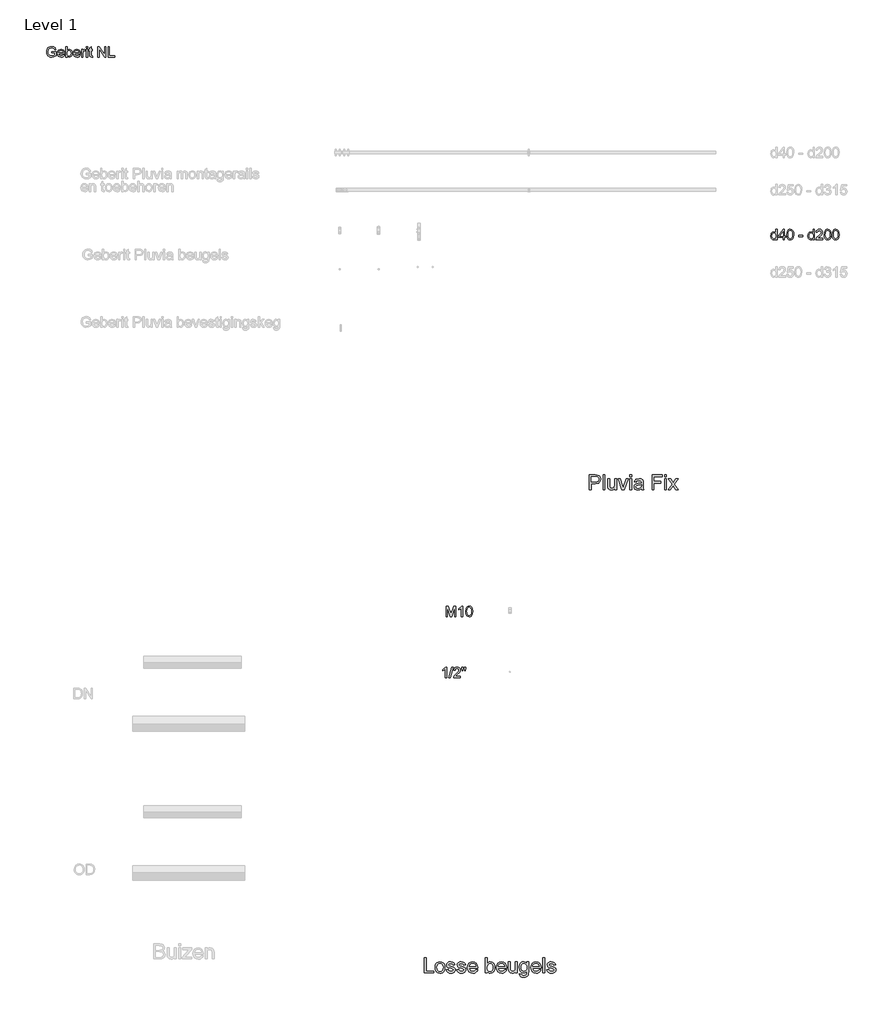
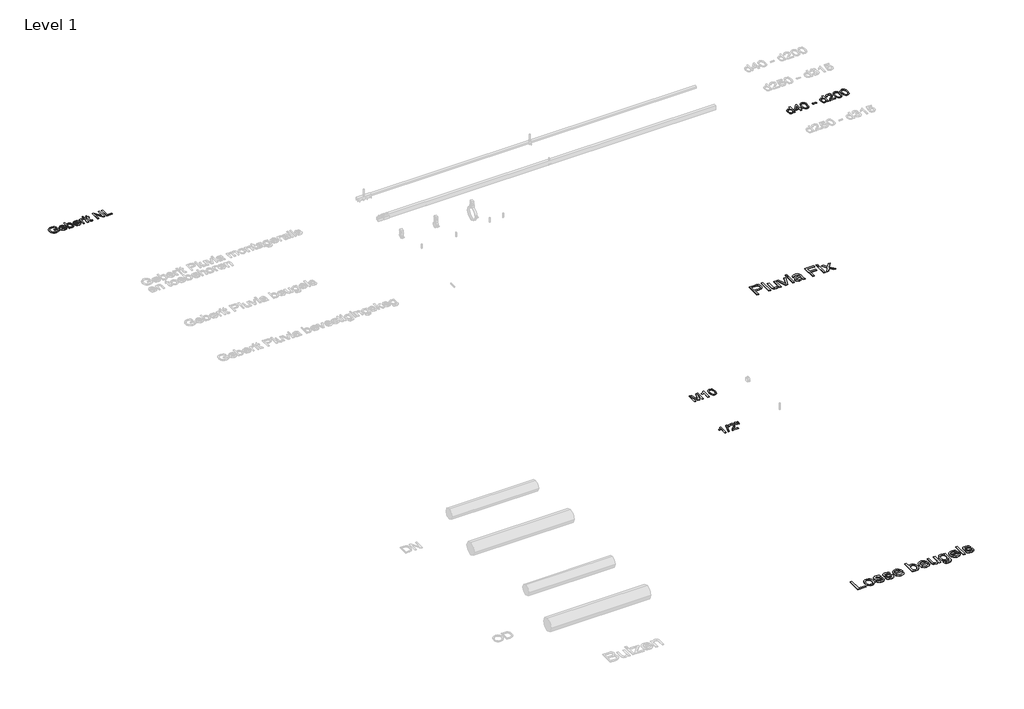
# One storey, part 4 of 5: 6 proxies.
"""IFC4 building model written with IfcOpenShell, lengths in millimetres."""

from ifc_helpers import new_model, si_unit, origin, origin_with_axes, place, context, project, spatial, polyline, outline, extrude, element, save

model = new_model("IFC4")

# Units and contexts
model_context = context("Model", 3, world=origin())
ifc_project = project(units=[si_unit("LENGTHUNIT", "METRE", prefix="MILLI")], contexts=[model_context])

# Site, building, storey
site = spatial("IfcSite", under=ifc_project)
building = spatial("IfcBuilding", under=site)
storey = spatial("IfcBuildingStorey", under=building, Name="Level 1", Elevation=0.0)

# Proxies
placement = place(None, origin())
element("IfcBuildingElementProxy", 1, Name="medium", ObjectType="medium", at=placement, inside=storey, context=model_context, shape_type="SweptSolid", body=[
    extrude(outline(polyline([(3622.9953252, 17479.9906194), (3622.9953252, 17680.9032397), (3697.454641, 17680.9032397), (3727.4738118, 17678.9902533), (3751.8766508, 17669.5969997), (3760.7487383, 17661.2706039), (3767.6955766, 17650.1728304), (3772.1837369, 17637.0823627), (3773.6797904, 17622.7778845), (3769.6392198, 17599.0985467), (3757.5175081, 17579.367809), (3747.8100219, 17571.5993676), (3734.8498458, 17566.0504808), (3699.1714236, 17561.6113714), (3648.1094027, 17561.6113714), (3648.1094027, 17479.9906194), (3622.9953252, 17479.9906194)]), holes=[polyline([(3648.1094027, 17586.7254489), (3700.6429516, 17586.7254489), (3722.912075, 17589.0308428), (3737.6273549, 17595.9470243), (3745.8311233, 17607.0447978), (3748.5657128, 17621.8949677), (3746.9531634, 17633.1766822), (3742.1155152, 17642.6925631), (3734.6536421, 17649.8539993), (3725.168418, 17654.0723795), (3700.0543404, 17655.7891622), (3648.1094027, 17655.7891622), (3648.1094027, 17586.7254489)])]), origin_with_axes(), (0.0, 0.0, 1.0), 5.0),
    extrude(outline(polyline([(3805.0723873, 17479.9906194), (3805.0723873, 17680.9032397), (3830.1864648, 17680.9032397), (3830.1864648, 17479.9906194), (3805.0723873, 17479.9906194)])), origin_with_axes(), (0.0, 0.0, 1.0), 5.0),
    extrude(outline(polyline([(3962.0353719, 17479.9906194), (3962.0353719, 17505.3499516), (3952.9486866, 17492.8818176), (3942.3659479, 17483.9760077), (3930.2871557, 17478.6325217), (3916.7123101, 17476.8513597), (3893.094286, 17481.8545548), (3876.8093764, 17494.4115936), (3869.3291091, 17512.9037952), (3867.8575811, 17536.2520392), (3867.8575811, 17627.5358249), (3892.9716587, 17627.5358249), (3892.9716587, 17548.073314), (3894.4922376, 17522.4687271), (3898.1526635, 17513.9277334), (3904.4250515, 17507.4346162), (3923.1379823, 17501.9654372), (3944.107256, 17507.5572436), (3952.4643087, 17514.1607254), (3957.9641445, 17522.7875582), (3962.0353719, 17550.7711153), (3962.0353719, 17627.5358249), (3987.1494495, 17627.5358249), (3987.1494495, 17479.9906194), (3962.0353719, 17479.9906194)])), origin_with_axes(), (0.0, 0.0, 1.0), 5.0),
    extrude(outline(polyline([(4057.8808944, 17479.9906194), (4005.9850076, 17627.5358249), (4032.5706131, 17627.5358249), (4064.012261, 17539.1460442), (4073.479091, 17509.421179), (4082.7497173, 17537.4783125), (4114.3875688, 17627.5358249), (4140.9731744, 17627.5358249), (4089.7149497, 17479.9906194), (4057.8808944, 17479.9906194)])), origin_with_axes(), (0.0, 0.0, 1.0), 5.0),
    extrude(outline(polyline([(4162.9479922, 17655.7891622), (4162.9479922, 17680.9032397), (4188.0620698, 17680.9032397), (4188.0620698, 17655.7891622), (4162.9479922, 17655.7891622)])), origin_with_axes(), (0.0, 0.0, 1.0), 5.0),
    extrude(outline(polyline([(4162.9479922, 17479.9906194), (4162.9479922, 17627.5358249), (4188.0620698, 17627.5358249), (4188.0620698, 17479.9906194), (4162.9479922, 17479.9906194)])), origin_with_axes(), (0.0, 0.0, 1.0), 5.0),
    extrude(outline(polyline([(4319.9109768, 17498.8261775), (4295.5571887, 17481.8055039), (4268.6527522, 17476.8513597), (4247.6650843, 17479.8312039), (4232.1833837, 17488.7707363), (4222.6368459, 17502.345582), (4219.4546667, 17519.2313655), (4224.2616581, 17539.0969933), (4236.8922732, 17553.5179675), (4254.4770326, 17561.7585242), (4276.2065958, 17565.535446), (4319.763824, 17574.1684102), (4319.9109768, 17579.7602165), (4318.1819314, 17590.9683546), (4312.9947953, 17598.301469), (4301.3942497, 17603.7461226), (4285.2319674, 17605.5610071), (4270.2714329, 17604.3531279), (4259.8235843, 17600.7294902), (4252.6989363, 17594.0279065), (4247.7080039, 17583.5861892), (4222.5939264, 17586.7254489), (4233.458708, 17611.2509153), (4242.7170715, 17619.5037347), (4255.3354239, 17625.6228385), (4288.469329, 17630.6750846), (4318.9054327, 17626.2114497), (4336.0977846, 17615.0033116), (4343.798781, 17597.9581125), (4345.0250544, 17575.9832947), (4345.0250544, 17544.7378505), (4346.3003786, 17501.1070459), (4351.3035737, 17479.9906194), (4326.1894962, 17479.9906194), (4319.9109768, 17498.8261775)]), holes=[polyline([(4319.9109768, 17549.0543326), (4279.3949064, 17541.3533362), (4257.7879706, 17537.2821088), (4248.0023095, 17530.6602329), (4244.5687442, 17520.9971991), (4246.438811, 17513.5291946), (4252.0490114, 17507.4100908), (4261.2767182, 17503.3266006), (4273.9993038, 17501.9654372), (4287.4883103, 17503.4676221), (4299.407687, 17507.9741765), (4315.7906985, 17522.517778), (4319.763824, 17541.9419474), (4319.9109768, 17549.0543326)])]), origin_with_axes(), (0.0, 0.0, 1.0), 5.0),
    extrude(outline(polyline([(4461.177663, 17479.9906194), (4461.177663, 17680.9032397), (4596.1658297, 17680.9032397), (4596.1658297, 17655.7891622), (4486.2917405, 17655.7891622), (4486.2917405, 17596.143228), (4580.4695313, 17596.143228), (4580.4695313, 17571.0291505), (4486.2917405, 17571.0291505), (4486.2917405, 17479.9906194), (4461.177663, 17479.9906194)])), origin_with_axes(), (0.0, 0.0, 1.0), 5.0),
    extrude(outline(polyline([(4627.5584267, 17655.7891622), (4627.5584267, 17680.9032397), (4652.6725042, 17680.9032397), (4652.6725042, 17655.7891622), (4627.5584267, 17655.7891622)])), origin_with_axes(), (0.0, 0.0, 1.0), 5.0),
    extrude(outline(polyline([(4627.5584267, 17479.9906194), (4627.5584267, 17627.5358249), (4652.6725042, 17627.5358249), (4652.6725042, 17479.9906194), (4627.5584267, 17479.9906194)])), origin_with_axes(), (0.0, 0.0, 1.0), 5.0),
    extrude(outline(polyline([(4674.647322, 17479.9906194), (4728.3090424, 17554.1556296), (4677.7865817, 17627.5358249), (4708.0019563, 17627.5358249), (4732.3802698, 17592.2191534), (4743.7600862, 17575.5418363), (4753.6193237, 17589.1779956), (4781.3821516, 17627.5358249), (4811.5975261, 17627.5358249), (4758.5244169, 17554.1556296), (4809.6354888, 17479.9906194), (4779.4201143, 17479.9906194), (4748.6651795, 17524.5779172), (4743.0243222, 17532.720372), (4704.8626966, 17479.9906194), (4674.647322, 17479.9906194)])), origin_with_axes(), (0.0, 0.0, 1.0), 5.0),
])
element("IfcBuildingElementProxy", 2, Name="medium", ObjectType="medium", at=placement, inside=storey, context=model_context, shape_type="SweptSolid", body=[
    extrude(outline(polyline([(1411.920531, 11013.7843258), (1411.920531, 11214.6969461), (1437.0346085, 11214.6969461), (1437.0346085, 11038.8984033), (1537.4909186, 11038.8984033), (1537.4909186, 11013.7843258), (1411.920531, 11013.7843258)])), origin_with_axes(), (0.0, 0.0, 1.0), 5.0),
    extrude(outline(polyline([(1556.3264768, 11087.5569286), (1561.7588676, 11123.1311175), (1568.5493561, 11136.9542835), (1578.05604, 11148.1348304), (1598.1914478, 11160.3853009), (1622.2999813, 11164.468791), (1648.6832517, 11159.4962527), (1669.7567586, 11144.5786378), (1683.5707276, 11120.8931687), (1688.1753839, 11089.6170677), (1686.1397702, 11064.2454728), (1680.032929, 11044.9316681), (1670.0326701, 11030.4677743), (1656.3168031, 11019.6459123), (1640.0257621, 11012.8952776), (1622.2999813, 11010.6450661), (1595.5978798, 11015.5992103), (1574.5488983, 11030.4616429), (1560.8820822, 11054.6437527), (1556.3264768, 11087.5569286)]), holes=[polyline([(1581.4405543, 11087.6059795), (1584.3468221, 11064.8770036), (1593.0656254, 11048.6840644), (1606.1867499, 11038.9903738), (1622.2999813, 11035.7591436), (1638.3396363, 11039.0087679), (1651.4362353, 11048.7576408), (1660.1550386, 11065.1651778), (1663.0613063, 11088.3907944), (1660.1366445, 11110.4575828), (1651.3626589, 11126.4297927), (1638.2476658, 11136.1234833), (1622.2999813, 11139.3547135), (1606.1867499, 11136.135746), (1593.0656254, 11126.4788437), (1584.3468221, 11110.3226927), (1581.4405543, 11087.6059795)])]), origin_with_axes(), (0.0, 0.0, 1.0), 5.0),
    extrude(outline(polyline([(1707.010942, 11057.7339615), (1732.1250196, 11060.8732212), (1736.0858824, 11050.1310669), (1743.7500906, 11042.2338668), (1755.1666952, 11037.3778244), (1770.3847471, 11035.7591436), (1785.4188579, 11037.2429344), (1795.9893339, 11041.6943065), (1802.2433278, 11048.1445041), (1804.3279925, 11055.6247714), (1802.2310651, 11062.0259181), (1795.940283, 11066.9064859), (1770.0904415, 11074.0679221), (1732.2721724, 11086.3551807), (1722.7011091, 11092.5294669), (1715.7665335, 11100.7025785), (1710.1502017, 11120.9606137), (1714.6628875, 11139.6735445), (1726.9746716, 11153.9718914), (1742.9407502, 11161.4031077), (1764.5476861, 11164.468791), (1795.1064171, 11159.5391723), (1806.5352845, 11153.7388995), (1814.5305865, 11146.1973186), (1823.1635506, 11123.658415), (1798.0494731, 11120.5191553), (1794.8795566, 11128.4224869), (1788.6071686, 11134.3760438), (1766.5097234, 11139.3547135), (1752.0887492, 11138.1652284), (1742.4747664, 11134.596773), (1737.066901, 11129.4464251), (1735.2642793, 11123.5112622), (1738.2563861, 11116.2026733), (1747.6251143, 11110.6599179), (1769.2565756, 11105.3133662), (1806.1183515, 11093.4920914), (1823.237127, 11080.1011868), (1827.8908343, 11070.2542121), (1829.44207, 11058.2735217), (1827.6210541, 11045.8881612), (1822.1580065, 11034.2385647), (1813.2613936, 11024.2383058), (1801.1396819, 11016.8009582), (1786.4979784, 11012.1840391), (1770.0413905, 11010.6450661), (1744.7188465, 11013.6126475), (1726.2389076, 11022.5153918), (1713.9025981, 11037.2551971), (1707.010942, 11057.7339615)])), origin_with_axes(), (0.0, 0.0, 1.0), 5.0),
    extrude(outline(polyline([(1848.2776282, 11057.7339615), (1873.3917057, 11060.8732212), (1877.3525685, 11050.1310669), (1885.0167768, 11042.2338668), (1896.4333813, 11037.3778244), (1911.6514332, 11035.7591436), (1926.6855441, 11037.2429344), (1937.2560201, 11041.6943065), (1943.510014, 11048.1445041), (1945.5946786, 11055.6247714), (1943.4977513, 11062.0259181), (1937.2069691, 11066.9064859), (1911.3571276, 11074.0679221), (1873.5388585, 11086.3551807), (1863.9677953, 11092.5294669), (1857.0332197, 11100.7025785), (1851.4168879, 11120.9606137), (1855.9295737, 11139.6735445), (1868.2413578, 11153.9718914), (1884.2074364, 11161.4031077), (1905.8143722, 11164.468791), (1936.3731033, 11159.5391723), (1947.8019706, 11153.7388995), (1955.7972726, 11146.1973186), (1964.4302368, 11123.658415), (1939.3161592, 11120.5191553), (1936.1462427, 11128.4224869), (1929.8738547, 11134.3760438), (1907.7764095, 11139.3547135), (1893.3554353, 11138.1652284), (1883.7414525, 11134.596773), (1878.3335872, 11129.4464251), (1876.5309654, 11123.5112622), (1879.5230723, 11116.2026733), (1888.8918004, 11110.6599179), (1910.5232618, 11105.3133662), (1947.3850377, 11093.4920914), (1964.5038132, 11080.1011868), (1969.1575204, 11070.2542121), (1970.7087562, 11058.2735217), (1968.8877403, 11045.8881612), (1963.4246927, 11034.2385647), (1954.5280797, 11024.2383058), (1942.406368, 11016.8009582), (1927.7646646, 11012.1840391), (1911.3080767, 11010.6450661), (1885.9855327, 11013.6126475), (1867.5055938, 11022.5153918), (1855.1692842, 11037.2551971), (1848.2776282, 11057.7339615)])), origin_with_axes(), (0.0, 0.0, 1.0), 5.0),
    extrude(outline(polyline([(2102.2633576, 11057.7339615), (2126.8869259, 11054.5947018), (2118.0148384, 11036.0411865), (2103.857513, 11022.1720353), (2084.7337806, 11013.5268084), (2060.9624723, 11010.6450661), (2031.4951245, 11015.6176044), (2008.8213309, 11030.5352193), (1994.3635685, 11054.4291549), (1989.5443143, 11086.3306552), (1994.4126194, 11119.3051447), (2009.0175346, 11143.9655012), (2031.3847599, 11159.3429686), (2059.5399953, 11164.468791), (2086.8184452, 11159.3552313), (2108.6154534, 11144.0145521), (2122.9076689, 11119.4032466), (2127.6717408, 11086.477808), (2127.524588, 11079.7087793), (2014.6583919, 11079.7087793), (2019.0055308, 11060.9100094), (2029.1038915, 11047.0899091), (2043.6781499, 11038.591835), (2061.4529816, 11035.7591436), (2086.0765499, 11041.0075934), (2095.2245488, 11047.8134103), (2102.2633576, 11057.7339615)]), holes=[polyline([(2014.6583919, 11104.8228569), (2102.5576632, 11104.8228569), (2099.1608861, 11118.0911342), (2092.502222, 11127.5824896), (2077.8605186, 11136.4116575), (2059.4418934, 11139.3547135), (2042.5131903, 11137.0064001), (2028.5152803, 11129.9614599), (2018.7848016, 11118.9801823), (2014.6583919, 11104.8228569)])]), origin_with_axes(), (0.0, 0.0, 1.0), 5.0),
    extrude(outline(polyline([(2256.3813882, 11013.7843258), (2231.2673106, 11013.7843258), (2231.2673106, 11214.6969461), (2256.3813882, 11214.6969461), (2256.3813882, 11140.1885793), (2273.9661475, 11158.3987381), (2284.3588139, 11162.9512778), (2295.818338, 11164.468791), (2320.9814665, 11158.999612), (2340.5037377, 11143.6221446), (2352.4966908, 11119.7098149), (2356.8376983, 11089.7642205), (2352.3434066, 11056.237908), (2338.8605315, 11031.2955088), (2319.0746115, 11015.8076768), (2295.6711852, 11010.6450661), (2283.834582, 11012.3097321), (2273.3407481, 11017.3037302), (2264.1896835, 11025.6270604), (2256.3813882, 11037.2797226), (2256.3813882, 11013.7843258)]), holes=[polyline([(2256.3813882, 11088.5869981), (2258.0981708, 11067.6422499), (2263.2485187, 11053.4665303), (2276.4064314, 11040.1859903), (2293.5129442, 11035.7591436), (2308.0074948, 11039.0210307), (2320.3928553, 11048.8066917), (2328.8909294, 11065.0548132), (2331.7236208, 11087.7040814), (2329.0074254, 11110.6844433), (2320.8588392, 11126.7486238), (2308.8597548, 11136.2031911), (2294.5920647, 11139.3547135), (2280.0975141, 11136.0928265), (2267.7121536, 11126.3071654), (2259.2140795, 11110.3533495), (2256.3813882, 11088.5869981)])]), origin_with_axes(), (0.0, 0.0, 1.0), 5.0),
    extrude(outline(polyline([(2488.3922998, 11057.7339615), (2513.015868, 11054.5947018), (2504.1437805, 11036.0411865), (2489.9864551, 11022.1720353), (2470.8627227, 11013.5268084), (2447.0914145, 11010.6450661), (2417.6240666, 11015.6176044), (2394.950273, 11030.5352193), (2380.4925106, 11054.4291549), (2375.6732565, 11086.3306552), (2380.5415615, 11119.3051447), (2395.1464767, 11143.9655012), (2417.513702, 11159.3429686), (2445.6689374, 11164.468791), (2472.9473873, 11159.3552313), (2494.7443956, 11144.0145521), (2509.0366111, 11119.4032466), (2513.8006829, 11086.477808), (2513.6535301, 11079.7087793), (2400.787334, 11079.7087793), (2405.1344729, 11060.9100094), (2415.2328337, 11047.0899091), (2429.807092, 11038.591835), (2447.5819238, 11035.7591436), (2472.205492, 11041.0075934), (2481.3534909, 11047.8134103), (2488.3922998, 11057.7339615)]), holes=[polyline([(2400.787334, 11104.8228569), (2488.6866054, 11104.8228569), (2485.2898283, 11118.0911342), (2478.6311642, 11127.5824896), (2463.9894608, 11136.4116575), (2445.5708355, 11139.3547135), (2428.6421324, 11137.0064001), (2414.6442225, 11129.9614599), (2404.9137437, 11118.9801823), (2400.787334, 11104.8228569)])]), origin_with_axes(), (0.0, 0.0, 1.0), 5.0),
    extrude(outline(polyline([(2633.0925512, 11013.7843258), (2633.0925512, 11039.143658), (2624.0058659, 11026.675524), (2613.4231272, 11017.7697141), (2601.344335, 11012.4262281), (2587.7694894, 11010.6450661), (2564.1514653, 11015.6482612), (2547.8665557, 11028.2053), (2540.3862884, 11046.6975016), (2538.9147604, 11070.0457456), (2538.9147604, 11161.3295313), (2564.028838, 11161.3295313), (2564.028838, 11081.8670204), (2565.5494169, 11056.2624335), (2569.2098428, 11047.7214399), (2575.4822308, 11041.2283226), (2594.1951616, 11035.7591436), (2615.1644353, 11041.35095), (2623.521488, 11047.9544318), (2629.0213238, 11056.5812646), (2633.0925512, 11084.5648217), (2633.0925512, 11161.3295313), (2658.2066288, 11161.3295313), (2658.2066288, 11013.7843258), (2633.0925512, 11013.7843258)])), origin_with_axes(), (0.0, 0.0, 1.0), 5.0),
    extrude(outline(polyline([(2686.459966, 11001.227287), (2711.5740435, 10998.0880273), (2714.3454212, 10990.2398781), (2719.7164983, 10984.8442755), (2730.2747116, 10980.6504208), (2744.0948119, 10979.2524692), (2758.8346172, 10980.8343618), (2769.7975006, 10985.5800395), (2777.4003952, 10993.1829341), (2782.0602338, 11003.3364771), (2783.7770164, 11032.6198839), (2766.0941552, 11018.4932153), (2744.5362703, 11013.7843258), (2718.6435092, 11019.2657675), (2699.3358358, 11035.7100927), (2687.3244887, 11059.8186261), (2683.3207063, 11088.2926926), (2685.1171967, 11108.5691219), (2690.5066679, 11127.2146076), (2699.2990476, 11143.0151393), (2711.3042634, 11154.7567063), (2726.1115137, 11162.0407699), (2743.309997, 11164.468791), (2765.7140105, 11158.9750866), (2783.7770164, 11142.4939732), (2783.7770164, 11161.3295313), (2808.891094, 11161.3295313), (2808.891094, 11033.9442591), (2807.1743113, 11004.5320936), (2802.0239634, 10985.1631066), (2793.1518759, 10972.3178936), (2780.2698748, 10962.4770502), (2763.6600027, 10956.2230563), (2743.6043026, 10954.1383916), (2720.2376645, 10957.0753162), (2701.8374334, 10965.88609), (2690.0345527, 10980.5952385), (2686.459966, 11001.227287)]), holes=[polyline([(2708.4347838, 11090.0094752), (2711.114191, 11066.9739309), (2719.1524126, 11051.136611), (2731.2373362, 11041.9579553), (2746.0568492, 11038.8984033), (2760.7659976, 11041.9395612), (2772.9122348, 11051.0630346), (2781.060821, 11066.6980194), (2783.7770164, 11089.2737112), (2780.9811133, 11111.046194), (2772.5934038, 11126.7240983), (2760.2693569, 11136.1970597), (2745.6644417, 11139.3547135), (2731.3231753, 11136.2461106), (2719.2995654, 11126.920302), (2711.1509792, 11111.4753896), (2708.4347838, 11090.0094752)])]), origin_with_axes(), (0.0, 0.0, 1.0), 5.0),
    extrude(outline(polyline([(2949.8634745, 11057.7339615), (2974.4870427, 11054.5947018), (2965.6149553, 11036.0411865), (2951.4576298, 11022.1720353), (2932.3338975, 11013.5268084), (2908.5625892, 11010.6450661), (2879.0952414, 11015.6176044), (2856.4214478, 11030.5352193), (2841.9636853, 11054.4291549), (2837.1444312, 11086.3306552), (2842.0127363, 11119.3051447), (2856.6176515, 11143.9655012), (2878.9848768, 11159.3429686), (2907.1401122, 11164.468791), (2934.4185621, 11159.3552313), (2956.2155703, 11144.0145521), (2970.5077858, 11119.4032466), (2975.2718577, 11086.477808), (2975.1247049, 11079.7087793), (2862.2585087, 11079.7087793), (2866.6056477, 11060.9100094), (2876.7040084, 11047.0899091), (2891.2782668, 11038.591835), (2909.0530985, 11035.7591436), (2933.6766667, 11041.0075934), (2942.8246657, 11047.8134103), (2949.8634745, 11057.7339615)]), holes=[polyline([(2862.2585087, 11104.8228569), (2950.1577801, 11104.8228569), (2946.761003, 11118.0911342), (2940.1023389, 11127.5824896), (2925.4606355, 11136.4116575), (2907.0420103, 11139.3547135), (2890.1133071, 11137.0064001), (2876.1153972, 11129.9614599), (2866.3849185, 11118.9801823), (2862.2585087, 11104.8228569)])]), origin_with_axes(), (0.0, 0.0, 1.0), 5.0),
    extrude(outline(polyline([(3000.3859352, 11013.7843258), (3000.3859352, 11214.6969461), (3025.5000127, 11214.6969461), (3025.5000127, 11013.7843258), (3000.3859352, 11013.7843258)])), origin_with_axes(), (0.0, 0.0, 1.0), 5.0),
    extrude(outline(polyline([(3053.75335, 11057.7339615), (3078.8674275, 11060.8732212), (3082.8282903, 11050.1310669), (3090.4924986, 11042.2338668), (3101.9091031, 11037.3778244), (3117.127155, 11035.7591436), (3132.1612659, 11037.2429344), (3142.7317419, 11041.6943065), (3148.9857358, 11048.1445041), (3151.0704004, 11055.6247714), (3148.9734731, 11062.0259181), (3142.6826909, 11066.9064859), (3116.8328494, 11074.0679221), (3079.0145803, 11086.3551807), (3069.4435171, 11092.5294669), (3062.5089415, 11100.7025785), (3056.8926097, 11120.9606137), (3061.4052955, 11139.6735445), (3073.7170796, 11153.9718914), (3089.6831582, 11161.4031077), (3111.290094, 11164.468791), (3141.8488251, 11159.5391723), (3153.2776924, 11153.7388995), (3161.2729944, 11146.1973186), (3169.9059586, 11123.658415), (3144.791881, 11120.5191553), (3141.6219645, 11128.4224869), (3135.3495765, 11134.3760438), (3113.2521313, 11139.3547135), (3098.8311571, 11138.1652284), (3089.2171743, 11134.596773), (3083.809309, 11129.4464251), (3082.0066872, 11123.5112622), (3084.9987941, 11116.2026733), (3094.3675222, 11110.6599179), (3115.9989836, 11105.3133662), (3152.8607595, 11093.4920914), (3169.979535, 11080.1011868), (3174.6332422, 11070.2542121), (3176.184478, 11058.2735217), (3174.3634621, 11045.8881612), (3168.9004145, 11034.2385647), (3160.0038015, 11024.2383058), (3147.8820898, 11016.8009582), (3133.2403864, 11012.1840391), (3116.7837985, 11010.6450661), (3091.4612545, 11013.6126475), (3072.9813156, 11022.5153918), (3060.645006, 11037.2551971), (3053.75335, 11057.7339615)])), origin_with_axes(), (0.0, 0.0, 1.0), 5.0),
])
element("IfcBuildingElementProxy", 3, Name="small", ObjectType="small", at=placement, inside=storey, context=model_context, shape_type="SweptSolid", body=[
    extrude(outline(polyline([(-3572.3545095, 23327.6639594), (-3572.3545095, 23344.8947287), (-3516.3545095, 23344.8947287), (-3516.3545095, 23293.3706902), (-3544.0011441, 23277.1158825), (-3573.2295095, 23271.6639594), (-3592.5594374, 23273.8304258), (-3610.0299903, 23280.3298248), (-3624.5432114, 23290.9349931), (-3635.0011441, 23305.4187671), (-3641.3238604, 23322.7925652), (-3643.4314326, 23342.0678056), (-3641.3322739, 23361.4818681), (-3635.0347979, 23379.5413633), (-3624.799822, 23394.6898008), (-3610.8881633, 23405.3706902), (-3593.9434518, 23411.7060267), (-3574.6093172, 23413.8178056), (-3547.6525864, 23408.921171), (-3528.7559518, 23395.2913633), (-3518.3400864, 23372.4908825), (-3534.2247018, 23368.014921), (-3542.0828749, 23383.9500171), (-3555.5107595, 23393.1375171), (-3574.8785479, 23396.5870363), (-3596.9386441, 23392.8682863), (-3611.9482595, 23383.108671), (-3620.8160479, 23369.8322287), (-3626.2006633, 23342.7745363), (-3624.581072, 23326.2967719), (-3619.7222979, 23312.7384787), (-3611.7715768, 23302.1964113), (-3600.8761441, 23294.7673248), (-3574.6093172, 23288.8947287), (-3551.0347979, 23293.3202094), (-3533.5852787, 23302.7601133), (-3533.5852787, 23327.6639594), (-3572.3545095, 23327.6639594)])), origin_with_axes(), (0.0, 0.0, 1.0), 5.0),
    extrude(outline(polyline([(-3419.6333556, 23303.9716517), (-3402.7391249, 23301.8178056), (-3408.8262643, 23289.0882383), (-3418.5396056, 23279.5726133), (-3431.6603989, 23273.6411229), (-3447.9698941, 23271.6639594), (-3468.1874422, 23275.0756181), (-3483.7439326, 23285.310594), (-3493.6634037, 23301.7042238), (-3496.9698941, 23323.591844), (-3493.6297499, 23346.2156421), (-3483.6093172, 23363.1351133), (-3468.2631633, 23373.685594), (-3448.9458556, 23377.202421), (-3430.2301104, 23373.6940075), (-3415.2751826, 23363.1687671), (-3405.4692931, 23346.2829498), (-3402.2006633, 23323.6928056), (-3402.3016249, 23319.0485748), (-3479.7391249, 23319.0485748), (-3476.7565528, 23306.1507383), (-3469.8280672, 23296.6687671), (-3459.8286681, 23290.8382383), (-3447.6333556, 23288.8947287), (-3430.7391249, 23292.4956902), (-3419.6333556, 23303.9716517)]), holes=[polyline([(-3479.7391249, 23336.279344), (-3419.4314326, 23336.279344), (-3426.330471, 23351.8947287), (-3436.3761441, 23357.952421), (-3449.0131633, 23359.9716517), (-3460.627947, 23358.3604738), (-3470.2319133, 23353.5269402), (-3476.9079951, 23345.9926854), (-3479.7391249, 23336.279344)])]), origin_with_axes(), (0.0, 0.0, 1.0), 5.0),
    extrude(outline(polyline([(-3367.7391249, 23273.8178056), (-3384.9698941, 23273.8178056), (-3384.9698941, 23411.6639594), (-3367.7391249, 23411.6639594), (-3367.7391249, 23360.5437671), (-3355.674221, 23373.0377575), (-3340.6814326, 23377.202421), (-3323.4170095, 23373.4500171), (-3310.0227787, 23362.8995363), (-3301.7944133, 23346.4932863), (-3298.8160479, 23325.9476133), (-3301.8995816, 23302.9452094), (-3311.1501826, 23285.8322287), (-3324.7253028, 23275.2060267), (-3340.7823941, 23271.6639594), (-3356.1033076, 23276.232469), (-3367.7391249, 23289.9379979), (-3367.7391249, 23273.8178056)]), holes=[polyline([(-3367.7391249, 23325.139921), (-3366.5612403, 23310.7697287), (-3363.0275864, 23301.0437671), (-3353.9999422, 23291.9319883), (-3342.2631633, 23288.8947287), (-3332.3184518, 23291.1327094), (-3323.8208556, 23297.8466517), (-3317.9903268, 23308.9944883), (-3316.0468172, 23324.5341517), (-3317.9103989, 23340.3009787), (-3323.5011441, 23351.3226133), (-3331.7337162, 23357.8093921), (-3341.5227787, 23359.9716517), (-3351.4674903, 23357.733671), (-3359.9650864, 23351.0197287), (-3365.7956153, 23340.0738152), (-3367.7391249, 23325.139921)])]), origin_with_axes(), (0.0, 0.0, 1.0), 5.0),
    extrude(outline(polyline([(-3208.5564326, 23303.9716517), (-3191.6622018, 23301.8178056), (-3197.7493412, 23289.0882383), (-3207.4626826, 23279.5726133), (-3220.5834758, 23273.6411229), (-3236.892971, 23271.6639594), (-3257.1105191, 23275.0756181), (-3272.6670095, 23285.310594), (-3282.5864806, 23301.7042238), (-3285.892971, 23323.591844), (-3282.5528268, 23346.2156421), (-3272.5323941, 23363.1351133), (-3257.1862403, 23373.685594), (-3237.8689326, 23377.202421), (-3219.1531874, 23373.6940075), (-3204.1982595, 23363.1687671), (-3194.3923701, 23346.2829498), (-3191.1237403, 23323.6928056), (-3191.2247018, 23319.0485748), (-3268.6622018, 23319.0485748), (-3265.6796297, 23306.1507383), (-3258.7511441, 23296.6687671), (-3248.7517451, 23290.8382383), (-3236.5564326, 23288.8947287), (-3219.6622018, 23292.4956902), (-3208.5564326, 23303.9716517)]), holes=[polyline([(-3268.6622018, 23336.279344), (-3208.3545095, 23336.279344), (-3215.2535479, 23351.8947287), (-3225.299221, 23357.952421), (-3237.9362403, 23359.9716517), (-3249.5510239, 23358.3604738), (-3259.1549903, 23353.5269402), (-3265.831072, 23345.9926854), (-3268.6622018, 23336.279344)])]), origin_with_axes(), (0.0, 0.0, 1.0), 5.0),
    extrude(outline(polyline([(-3173.892971, 23273.8178056), (-3173.892971, 23375.0485748), (-3158.8160479, 23375.0485748), (-3158.8160479, 23360.0726133), (-3148.1141249, 23373.8706902), (-3137.3448941, 23377.202421), (-3120.0468172, 23371.8851133), (-3125.8016249, 23356.4379979), (-3137.9170095, 23359.9716517), (-3147.6597979, 23356.5726133), (-3153.8689326, 23347.1495363), (-3156.6622018, 23327.0245363), (-3156.6622018, 23273.8178056), (-3173.892971, 23273.8178056)])), origin_with_axes(), (0.0, 0.0, 1.0), 5.0),
    extrude(outline(polyline([(-3109.2775864, 23273.8178056), (-3109.2775864, 23375.0485748), (-3092.0468172, 23375.0485748), (-3092.0468172, 23273.8178056), (-3109.2775864, 23273.8178056)])), origin_with_axes(), (0.0, 0.0, 1.0), 5.0),
    extrude(outline(polyline([(-3109.2775864, 23394.4331902), (-3109.2775864, 23411.6639594), (-3092.0468172, 23411.6639594), (-3092.0468172, 23394.4331902), (-3109.2775864, 23394.4331902)])), origin_with_axes(), (0.0, 0.0, 1.0), 5.0),
    extrude(outline(polyline([(-3029.5852787, 23288.1879979), (-3027.4314326, 23273.3129979), (-3040.3208556, 23271.6639594), (-3054.7583556, 23274.5245363), (-3061.9602787, 23282.029344), (-3064.0468172, 23301.5822287), (-3064.0468172, 23357.8178056), (-3076.9698941, 23357.8178056), (-3076.9698941, 23375.0485748), (-3064.0468172, 23375.0485748), (-3064.0468172, 23399.6495363), (-3046.8160479, 23409.779344), (-3046.8160479, 23375.0485748), (-3029.5852787, 23375.0485748), (-3029.5852787, 23357.8178056), (-3046.8160479, 23357.8178056), (-3046.8160479, 23302.0870363), (-3045.9073941, 23293.202421), (-3042.9626826, 23290.0557863), (-3037.0900864, 23288.8947287), (-3029.5852787, 23288.1879979)])), origin_with_axes(), (0.0, 0.0, 1.0), 5.0),
    extrude(outline(polyline([(-2956.3545095, 23273.8178056), (-2956.3545095, 23411.6639594), (-2937.9122018, 23411.6639594), (-2865.892971, 23302.4572287), (-2865.892971, 23411.6639594), (-2848.6622018, 23411.6639594), (-2848.6622018, 23273.8178056), (-2867.1045095, 23273.8178056), (-2939.1237403, 23383.0581902), (-2939.1237403, 23273.8178056), (-2956.3545095, 23273.8178056)])), origin_with_axes(), (0.0, 0.0, 1.0), 5.0),
    extrude(outline(polyline([(-2818.5083556, 23273.8178056), (-2818.5083556, 23411.6639594), (-2801.2775864, 23411.6639594), (-2801.2775864, 23291.0485748), (-2732.3545095, 23291.0485748), (-2732.3545095, 23273.8178056), (-2818.5083556, 23273.8178056)])), origin_with_axes(), (0.0, 0.0, 1.0), 5.0),
])
element("IfcBuildingElementProxy", 4, Name="small", ObjectType="small", at=placement, inside=storey, context=model_context, shape_type="SweptSolid", body=[
    extrude(outline(polyline([(1704.9338092, 15785.1742315), (1704.9338092, 15925.8130657), (1735.1835194, 15925.8130657), (1763.9567965, 15826.6860358), (1769.7595219, 15805.9816371), (1776.0429464, 15828.4028185), (1804.3355243, 15925.8130657), (1834.5852345, 15925.8130657), (1834.5852345, 15785.1742315), (1817.0053803, 15785.1742315), (1817.0053803, 15908.2332114), (1781.6739934, 15785.1742315), (1757.8450503, 15785.1742315), (1722.5136635, 15908.2332114), (1722.5136635, 15785.1742315), (1704.9338092, 15785.1742315)])), origin_with_axes(), (0.0, 0.0, 1.0), 5.0),
    extrude(outline(polyline([(1924.6819877, 15785.1742315), (1907.1021334, 15785.1742315), (1907.1021334, 15894.7736355), (1890.4493418, 15882.9106674), (1871.9424249, 15874.0349012), (1871.9424249, 15890.6533572), (1897.7113324, 15907.1001349), (1913.3512222, 15925.8130657), (1924.6819877, 15925.8130657), (1924.6819877, 15785.1742315)])), origin_with_axes(), (0.0, 0.0, 1.0), 5.0),
    extrude(outline(polyline([(1966.4341416, 15854.3605721), (1971.6016574, 15894.825139), (1978.0224244, 15908.4950208), (1986.9496942, 15918.1562151), (1998.447846, 15923.8988531), (2012.5812591, 15925.8130657), (2033.1139795, 15921.2807595), (2047.2946041, 15908.2160436), (2055.5351608, 15887.408638), (2058.7283765, 15854.3605721), (2053.6123643, 15814.0676834), (2047.2302248, 15800.3849257), (2038.3158309, 15790.6851038), (2026.7919274, 15784.9038382), (2012.5812591, 15782.9767497), (1994.3146917, 15786.3244759), (1980.443088, 15796.3676543), (1969.9363782, 15820.1536779), (1966.4341416, 15854.3605721)]), holes=[polyline([(1984.0139959, 15854.3949077), (1986.074135, 15826.7418313), (1992.2545526, 15810.7371251), (2001.4565075, 15803.1017343), (2012.5812591, 15800.556604), (2023.7060106, 15803.1103182), (2032.9079656, 15810.7714607), (2039.0883831, 15826.7847508), (2041.1485223, 15854.3949077), (2039.1570544, 15881.4256504), (2033.1826508, 15897.5548234), (2023.9978637, 15905.5636144), (2012.3752452, 15908.2332114), (2001.3706684, 15905.8812192), (1992.5292378, 15898.8252425), (1986.1428064, 15881.6917518), (1984.0139959, 15854.3949077)])]), origin_with_axes(), (0.0, 0.0, 1.0), 5.0),
])
element("IfcBuildingElementProxy", 5, Name="small", ObjectType="small", at=placement, inside=storey, context=model_context, shape_type="SweptSolid", body=[
    extrude(outline(polyline([(1709.7587403, 14967.5680749), (1692.178886, 14967.5680749), (1692.178886, 15077.1674789), (1675.5260944, 15065.3045109), (1657.0191775, 15056.4287446), (1657.0191775, 15073.0472006), (1682.788085, 15089.4939783), (1698.4279749, 15108.2069092), (1709.7587403, 15108.2069092), (1709.7587403, 14967.5680749)])), origin_with_axes(), (0.0, 0.0, 1.0), 5.0),
    extrude(outline(polyline([(1742.7209671, 14967.5680749), (1782.2756392, 15108.2069092), (1798.1387108, 15108.2069092), (1758.5840387, 14967.5680749), (1742.7209671, 14967.5680749)])), origin_with_axes(), (0.0, 0.0, 1.0), 5.0),
    extrude(outline(polyline([(1896.544692, 14985.1479292), (1896.544692, 14967.5680749), (1804.2504571, 14967.5680749), (1806.138918, 14979.6885604), (1816.817306, 14998.3499878), (1838.8264595, 15018.7281977), (1869.1791767, 15048.0165096), (1874.8703111, 15058.1111916), (1876.7673559, 15067.9311883), (1874.97761, 15076.7339913), (1869.6083723, 15084.0517773), (1861.3549398, 15088.9832355), (1850.9126093, 15090.6270549), (1839.9466602, 15089.0218631), (1831.4271263, 15084.2062878), (1825.9291299, 15076.5580211), (1824.0277931, 15066.4547552), (1806.4479388, 15068.652237), (1810.7098518, 15085.6569691), (1819.9246826, 15098.0778916), (1833.6117322, 15105.6746548), (1851.2903015, 15108.2069092), (1869.0976295, 15105.3913856), (1882.7589274, 15096.944815), (1891.4501395, 15084.3264626), (1894.3472102, 15068.9955936), (1891.2226658, 15052.3256341), (1880.8361308, 15035.0891363), (1855.6509294, 15011.0026758), (1835.4272299, 14994.0923668), (1827.4956941, 14985.1479292), (1896.544692, 14985.1479292)])), origin_with_axes(), (0.0, 0.0, 1.0), 5.0),
    extrude(outline(polyline([(1918.4165029, 15057.6648281), (1914.1245463, 15084.8243295), (1914.1245463, 15108.2069092), (1931.7044006, 15108.2069092), (1931.7044006, 15084.8243295), (1927.8588074, 15057.6648281), (1918.4165029, 15057.6648281)])), origin_with_axes(), (0.0, 0.0, 1.0), 5.0),
    extrude(outline(polyline([(1953.4732045, 15057.6648281), (1949.2842548, 15084.8243295), (1949.2842548, 15108.2069092), (1966.8641091, 15108.2069092), (1966.8641091, 15084.8243295), (1962.7438308, 15057.6648281), (1953.4732045, 15057.6648281)])), origin_with_axes(), (0.0, 0.0, 1.0), 5.0),
])
element("IfcBuildingElementProxy", 6, Name="small", ObjectType="small", at=placement, inside=storey, context=model_context, shape_type="SweptSolid", body=[
    extrude(outline(polyline([(6118.2796977, 20827.2930681), (6118.2796977, 20843.8771884), (6106.6484953, 20829.7909868), (6090.5708258, 20825.0955863), (6079.2057247, 20826.7952011), (6068.8020219, 20831.8940456), (6059.9949269, 20840.0358873), (6053.4196494, 20850.8644938), (6047.9602806, 20878.8308831), (6052.9904538, 20906.8144402), (6059.2738782, 20917.91344), (6068.0638054, 20926.0767414), (6078.6949819, 20931.0983307), (6090.5021545, 20932.7721937), (6106.7085827, 20927.9823702), (6118.2796977, 20915.535696), (6118.2796977, 20967.9319023), (6135.859552, 20967.9319023), (6135.859552, 20827.2930681), (6118.2796977, 20827.2930681)]), holes=[polyline([(6065.5401349, 20878.8995544), (6067.5230188, 20862.9978551), (6073.4716707, 20851.6885495), (6082.1156713, 20844.9287178), (6092.1846015, 20842.6754406), (6102.2492398, 20844.8257108), (6110.6743506, 20851.2765216), (6116.3783609, 20862.1480477), (6118.2796977, 20877.5604639), (6116.3440253, 20894.4106856), (6110.537008, 20906.0933914), (6101.8972993, 20912.9176025), (6091.4635528, 20915.1923395), (6081.2916156, 20913.0077335), (6072.9566359, 20906.4539158), (6067.3942601, 20895.1961136), (6065.5401349, 20878.8995544)])]), origin_with_axes(), (0.0, 0.0, 1.0), 5.0),
    extrude(outline(polyline([(6214.9688962, 20827.2930681), (6214.9688962, 20860.2552949), (6151.2419245, 20860.2552949), (6151.2419245, 20877.8351491), (6219.3638598, 20965.7344205), (6232.5487505, 20965.7344205), (6232.5487505, 20877.8351491), (6250.1286048, 20877.8351491), (6250.1286048, 20860.2552949), (6232.5487505, 20860.2552949), (6232.5487505, 20827.2930681), (6214.9688962, 20827.2930681)]), holes=[polyline([(6214.9688962, 20877.8351491), (6214.9688962, 20932.154152), (6172.8733858, 20877.8351491), (6214.9688962, 20877.8351491)])]), origin_with_axes(), (0.0, 0.0, 1.0), 5.0),
    extrude(outline(polyline([(6265.5109773, 20896.4794086), (6270.678493, 20936.9439756), (6277.0992601, 20950.6138574), (6286.0265299, 20960.2750517), (6297.5246816, 20966.0176896), (6311.6580947, 20967.9319023), (6332.1908152, 20963.3995961), (6346.3714398, 20950.3348802), (6354.6119965, 20929.5274745), (6357.8052122, 20896.4794086), (6352.6891999, 20856.18652), (6346.3070605, 20842.5037623), (6337.3926666, 20832.8039404), (6325.8687631, 20827.0226748), (6311.6580947, 20825.0955863), (6293.3915274, 20828.4433125), (6279.5199236, 20838.4864909), (6269.0132139, 20862.2725145), (6265.5109773, 20896.4794086)]), holes=[polyline([(6283.0908315, 20896.5137443), (6285.1509707, 20868.8606679), (6291.3313882, 20852.8559617), (6300.5333432, 20845.2205708), (6311.6580947, 20842.6754406), (6322.7828463, 20845.2291548), (6331.9848013, 20852.8902973), (6338.1652188, 20868.9035874), (6340.2253579, 20896.5137443), (6338.2338901, 20923.544487), (6332.2594865, 20939.67366), (6323.0746993, 20947.682451), (6311.4520808, 20950.352048), (6300.4475041, 20948.0000558), (6291.6060735, 20940.9440791), (6285.219642, 20923.8105883), (6283.0908315, 20896.5137443)])]), origin_with_axes(), (0.0, 0.0, 1.0), 5.0),
    extrude(outline(polyline([(6423.7296658, 20869.045222), (6423.7296658, 20886.6250763), (6478.6667104, 20886.6250763), (6478.6667104, 20869.045222), (6423.7296658, 20869.045222)])), origin_with_axes(), (0.0, 0.0, 1.0), 5.0),
    extrude(outline(polyline([(6617.1080628, 20827.2930681), (6617.1080628, 20843.8771884), (6605.4768604, 20829.7909868), (6589.3991909, 20825.0955863), (6578.0340898, 20826.7952011), (6567.630387, 20831.8940456), (6558.823292, 20840.0358873), (6552.2480145, 20850.8644938), (6546.7886457, 20878.8308831), (6551.8188188, 20906.8144402), (6558.1022433, 20917.91344), (6566.8921705, 20926.0767414), (6577.523347, 20931.0983307), (6589.3305196, 20932.7721937), (6605.5369478, 20927.9823702), (6617.1080628, 20915.535696), (6617.1080628, 20967.9319023), (6634.6879171, 20967.9319023), (6634.6879171, 20827.2930681), (6617.1080628, 20827.2930681)]), holes=[polyline([(6564.3685, 20878.8995544), (6566.3513839, 20862.9978551), (6572.3000358, 20851.6885495), (6580.9440364, 20844.9287178), (6591.0129666, 20842.6754406), (6601.0776049, 20844.8257108), (6609.5027157, 20851.2765216), (6615.206726, 20862.1480477), (6617.1080628, 20877.5604639), (6615.1723904, 20894.4106856), (6609.3653731, 20906.0933914), (6600.7256644, 20912.9176025), (6590.2919179, 20915.1923395), (6580.1199807, 20913.0077335), (6571.785001, 20906.4539158), (6566.2226252, 20895.1961136), (6564.3685, 20878.8995544)])]), origin_with_axes(), (0.0, 0.0, 1.0), 5.0),
    extrude(outline(polyline([(6746.7594881, 20844.8729224), (6746.7594881, 20827.2930681), (6654.4652531, 20827.2930681), (6656.353714, 20839.4135536), (6667.0321021, 20858.0749809), (6689.0412556, 20878.4531909), (6719.3939727, 20907.7415028), (6725.0851072, 20917.8361847), (6726.982152, 20927.6561815), (6725.1924061, 20936.4589845), (6719.8231684, 20943.7767705), (6711.5697358, 20948.7082286), (6701.1274054, 20950.352048), (6690.1614563, 20948.7468562), (6681.6419224, 20943.9312809), (6676.143926, 20936.2830142), (6674.2425892, 20926.1797484), (6656.6627349, 20928.3772302), (6660.9246478, 20945.3819623), (6670.1394787, 20957.8028847), (6683.8265283, 20965.3996479), (6701.5050976, 20967.9319023), (6719.3124256, 20965.1163788), (6732.9737235, 20956.6698081), (6741.6649356, 20944.0514557), (6744.5620063, 20928.7205867), (6741.4374619, 20912.0506272), (6731.0509269, 20894.8141295), (6705.8657255, 20870.727669), (6685.642026, 20853.8173599), (6677.7104901, 20844.8729224), (6746.7594881, 20844.8729224)])), origin_with_axes(), (0.0, 0.0, 1.0), 5.0),
    extrude(outline(polyline([(6764.3393424, 20896.4794086), (6769.5068581, 20936.9439756), (6775.9276252, 20950.6138574), (6784.854895, 20960.2750517), (6796.3530467, 20966.0176896), (6810.4864598, 20967.9319023), (6831.0191803, 20963.3995961), (6845.1998049, 20950.3348802), (6853.4403616, 20929.5274745), (6856.6335773, 20896.4794086), (6851.517565, 20856.18652), (6845.1354256, 20842.5037623), (6836.2210317, 20832.8039404), (6824.6971282, 20827.0226748), (6810.4864598, 20825.0955863), (6792.2198925, 20828.4433125), (6778.3482887, 20838.4864909), (6767.841579, 20862.2725145), (6764.3393424, 20896.4794086)]), holes=[polyline([(6781.9191966, 20896.5137443), (6783.9793358, 20868.8606679), (6790.1597533, 20852.8559617), (6799.3617083, 20845.2205708), (6810.4864598, 20842.6754406), (6821.6112114, 20845.2291548), (6830.8131663, 20852.8902973), (6836.9935839, 20868.9035874), (6839.053723, 20896.5137443), (6837.0622552, 20923.544487), (6831.0878516, 20939.67366), (6821.9030644, 20947.682451), (6810.2804459, 20950.352048), (6799.2758692, 20948.0000558), (6790.4344386, 20940.9440791), (6784.0480071, 20923.8105883), (6781.9191966, 20896.5137443)])]), origin_with_axes(), (0.0, 0.0, 1.0), 5.0),
    extrude(outline(polyline([(6872.0159498, 20896.4794086), (6877.1834656, 20936.9439756), (6883.6042326, 20950.6138574), (6892.5315024, 20960.2750517), (6904.0296542, 20966.0176896), (6918.1630673, 20967.9319023), (6938.6957877, 20963.3995961), (6952.8764123, 20950.3348802), (6961.116969, 20929.5274745), (6964.3101848, 20896.4794086), (6959.1941725, 20856.18652), (6952.812033, 20842.5037623), (6943.8976391, 20832.8039404), (6932.3737356, 20827.0226748), (6918.1630673, 20825.0955863), (6899.8964999, 20828.4433125), (6886.0248962, 20838.4864909), (6875.5181864, 20862.2725145), (6872.0159498, 20896.4794086)]), holes=[polyline([(6889.5958041, 20896.5137443), (6891.6559433, 20868.8606679), (6897.8363608, 20852.8559617), (6907.0383157, 20845.2205708), (6918.1630673, 20842.6754406), (6929.2878188, 20845.2291548), (6938.4897738, 20852.8902973), (6944.6701913, 20868.9035874), (6946.7303305, 20896.5137443), (6944.7388626, 20923.544487), (6938.764459, 20939.67366), (6929.5796719, 20947.682451), (6917.9570534, 20950.352048), (6906.9524766, 20948.0000558), (6898.111046, 20940.9440791), (6891.7246146, 20923.8105883), (6889.5958041, 20896.5137443)])]), origin_with_axes(), (0.0, 0.0, 1.0), 5.0),
])

save(model, "model.ifc")
